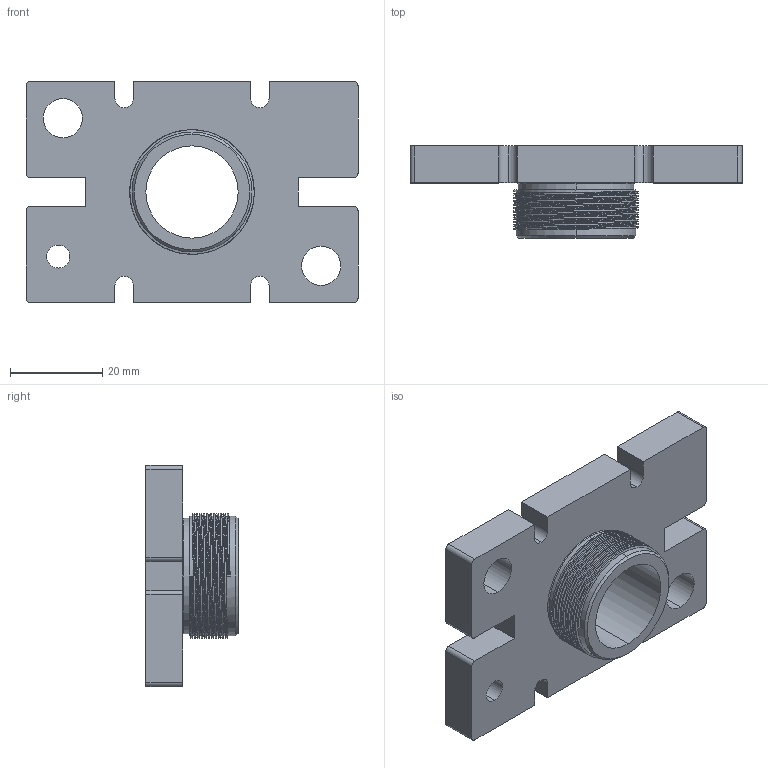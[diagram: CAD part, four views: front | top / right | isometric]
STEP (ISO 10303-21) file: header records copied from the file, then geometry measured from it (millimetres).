
FILE_DESCRIPTION (( 'STEP AP214' ), '1' );
FILE_NAME ('SMBM-40.STEP', '2019-11-06T07:53:25', ( '微软用户' ), ( '微软中国' ), 'SwSTEP 2.0', 'SolidWorks 2016', '' );
FILE_SCHEMA (( 'AUTOMOTIVE_DESIGN' ));
Length unit declared in the file: millimetre
Products named in the file (1): SMBM-40
Bounding box: 72 x 20 x 48 mm (x, y, z)
Volume: 24808.8 mm3; surface area: 11742.6 mm2
Topology: 1 solids, 1 shells, 85 faces, 237 edges, 156 vertices
Faces by surface type: cylinder 48, plane 30, bspline 5, cone 2
Entity records: 4397 total; most frequent: CARTESIAN_POINT 2284, ORIENTED_EDGE 474, DIRECTION 402, EDGE_CURVE 237, VERTEX_POINT 156, AXIS2_PLACEMENT_3D 136, LINE 130, VECTOR 130
